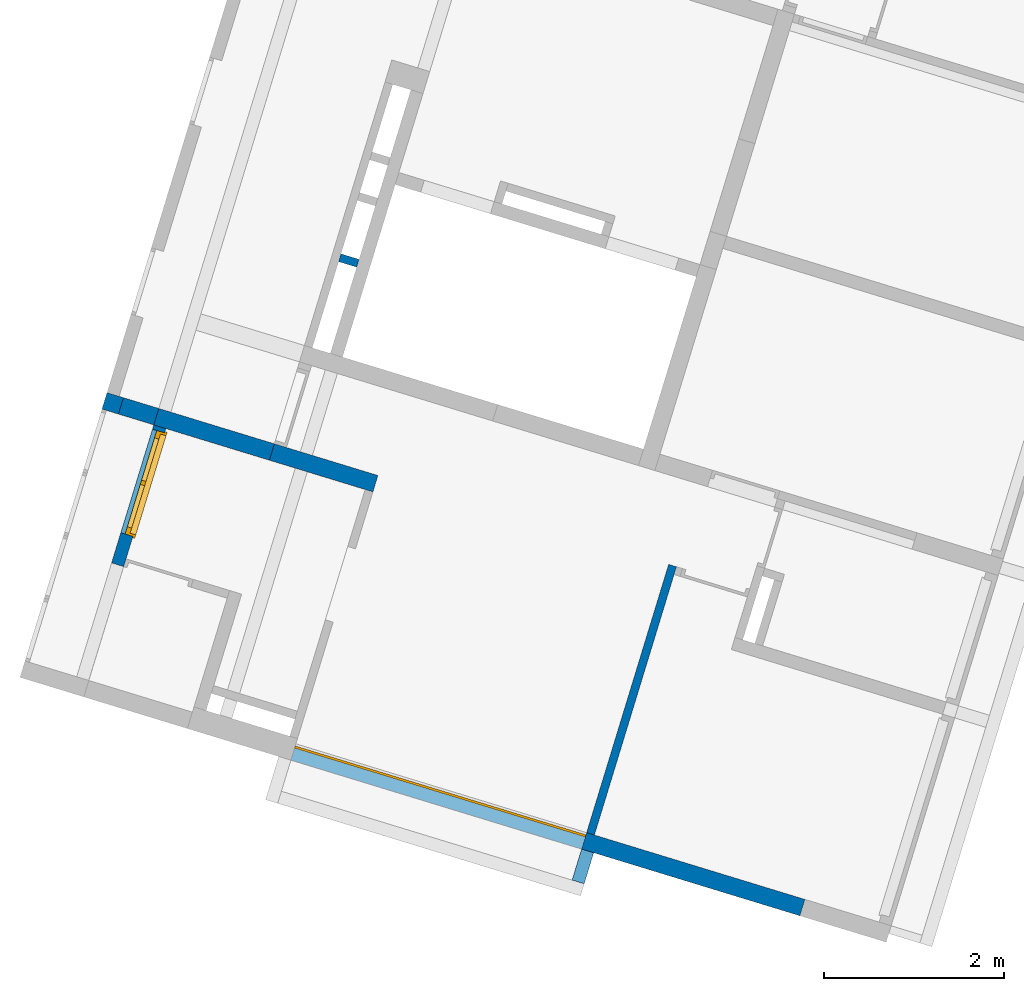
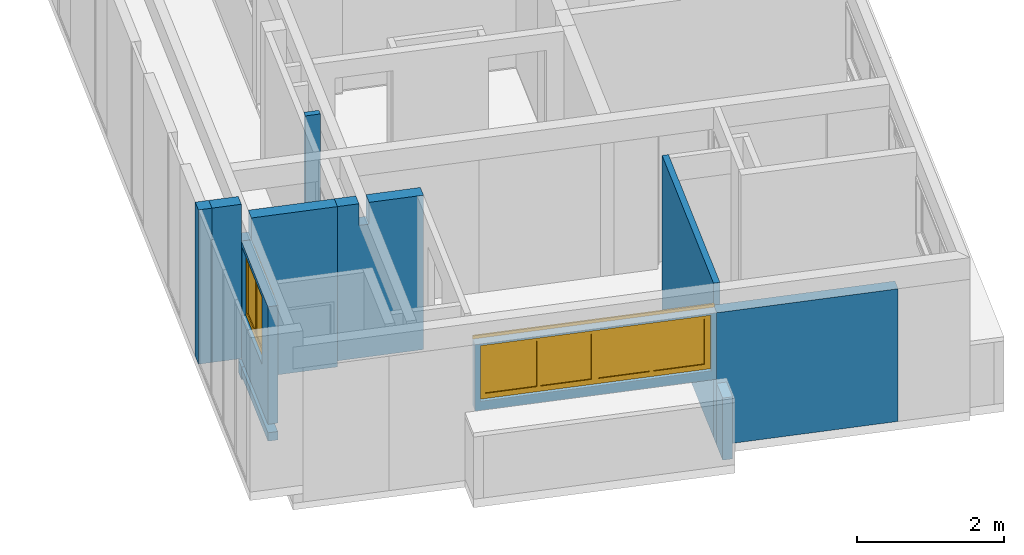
# One storey, part 11 of 18: 9 walls, 2 windows, 6 openings, plus 1 element that does not belong to this part.
"""IFC2X3 building model written with IfcOpenShell, lengths in millimetres."""

from ifc_helpers import new_model, entity, si_unit, converted_unit, derived_unit, money_unit, direction, frame, origin_with_axes, place, context, subcontext, project, spatial, open_shell, faceted_brep, surface_model, material, type_object, element, fill, save


model = new_model("IFC2X3")

# Units and contexts
model_context = context("Model", 3, precision=0.01, world=origin_with_axes(), true_north=direction((0.0, 1.0)))
body_context = subcontext(model_context, "Body", "Model", "MODEL_VIEW")
ifc_project = project(units=[si_unit("LENGTHUNIT", "METRE", prefix="MILLI"), si_unit("AREAUNIT", "SQUARE_METRE"), si_unit("VOLUMEUNIT", "CUBIC_METRE"), converted_unit("PLANEANGLEUNIT", "DEGREE", entity("IfcPlaneAngleMeasure", 0.0174532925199), si_unit("PLANEANGLEUNIT", "RADIAN"), dimensions=[0, 0, 0, 0, 0, 0, 0]), money_unit("USD"), converted_unit("TIMEUNIT", "Year", entity("IfcTimeMeasure", 31556926.0), si_unit("TIMEUNIT", "SECOND"), dimensions=[0, 0, 1, 0, 0, 0, 0]), si_unit("MASSUNIT", "GRAM", prefix="KILO"), si_unit("THERMODYNAMICTEMPERATUREUNIT", "DEGREE_CELSIUS"), si_unit("LUMINOUSINTENSITYUNIT", "LUMEN"), si_unit("ENERGYUNIT", "JOULE", prefix="MEGA"), derived_unit("THERMALCONDUCTANCEUNIT", [(si_unit("POWERUNIT", "WATT"), 1), (si_unit("LENGTHUNIT", "METRE"), -1), (si_unit("THERMODYNAMICTEMPERATUREUNIT", "KELVIN"), -1)]), derived_unit("SPECIFICHEATCAPACITYUNIT", [(si_unit("ENERGYUNIT", "JOULE"), 1), (si_unit("MASSUNIT", "GRAM", prefix="KILO"), -1), (si_unit("THERMODYNAMICTEMPERATUREUNIT", "KELVIN"), -1)]), derived_unit("MASSDENSITYUNIT", [(si_unit("MASSUNIT", "GRAM", prefix="KILO"), 1), (si_unit("VOLUMEUNIT", "CUBIC_METRE"), -1)])], contexts=[model_context])

# Site, building, storey
site_placement = place(None, frame((0.0, 0.0, 0.0), z_axis=(0.0, 0.0, 1.0), x_axis=(0.956304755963, -0.292371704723, 0.0)))
site = spatial("IfcSite", under=ifc_project, at=site_placement, Name="Site", CompositionType="ELEMENT")
building_placement = place(site_placement, origin_with_axes())
building = spatial("IfcBuilding", under=site, at=building_placement, Name="Building", CompositionType="ELEMENT")
storey_placement = place(building_placement, origin_with_axes())
storey = spatial("IfcBuildingStorey", under=building, at=storey_placement, Name="Pavimento tipo", CompositionType="ELEMENT", Elevation=0.0)

# Wall
ifc_material = material(Name="Tijolo - Estrutural")
wall_type_1 = type_object("IfcWallType", Name="Tijolo - Estrutural 90", PredefinedType="NOTDEFINED")
wall_1_placement = place(storey_placement, frame((1341.71075808, 5439.99196603, -100.0), z_axis=(0.0, 0.0, 1.0), x_axis=(1.0, 0.0, 0.0)))
element("IfcWall", 1, at=wall_1_placement, inside=storey, type_object=wall_type_1, material=ifc_material, Name="Parede 56", context=body_context, shape_type="Brep", body=[
    faceted_brep([(90.0000042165, 90.0, 0.0), (300.000183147, 90.0, 0.0), (300.000183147, 0.0, 0.0), (90.0, 0.0, 0.0), (90.0000042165, 90.0, 2560.0), (300.000183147, 90.0, 2560.0), (300.000183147, 0.0, 2560.0), (90.0, 0.0, 2560.0)], [[[0, 1, 2, 3]], [[4, 5, 1, 0]], [[6, 2, 1, 5]], [[3, 2, 6, 7]], [[7, 4, 0, 3]], [[7, 6, 5, 4]]]),
])

# Space
space_placement = place(storey_placement, frame((1481.71507604, 4250.00139822, 0.0), z_axis=(0.0, 0.0, 1.0), x_axis=(3.39571890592e-07, -1.0, 0.0)))
space = spatial("IfcSpace", under=storey, at=space_placement, Name="01", CompositionType="ELEMENT", InteriorOrExteriorSpace="INTERNAL")

# Walls
wall_2_placement = place(space_placement, frame((4250.00293298, 4429.99940685, 0.0), z_axis=(0.0, 0.0, 1.0), x_axis=(-1.0, -5.30711042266e-07, 0.0)))
element("IfcWall", 2, at=wall_2_placement, inside=space, type_object=wall_type_1, material=ifc_material, Name="Apt 01 - Parede 19", context=body_context, shape_type="Brep", body=[
    faceted_brep([(3300.00007874, 0.0, 2560.0), (189.990074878, 0.0, 2560.0), (189.989996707, -90.0, 2560.0), (3299.99999441, -90.0, 2560.0), (190.000078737, 0.00275009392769, 2200.0), (189.990074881, 0.00275009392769, 2200.0), (3300.00007874, 0.0, 0.0), (190.000078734, 0.0, 0.0), (190.000078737, 0.0, 1100.0), (189.989996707, -90.0, 2200.0), (190.000000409, -90.0, 2200.0), (190.000000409, -90.0, 0.0), (3299.99999441, -90.0, 0.0)], [[[0, 1, 2, 3]], [[4, 5, 1, 0, 6, 7, 8]], [[5, 9, 2, 1]], [[3, 2, 9, 10, 11, 12]], [[12, 6, 0, 3]], [[10, 9, 5, 4]], [[6, 12, 11, 7]], [[10, 4, 8, 7, 11]]]),
])
wall_type_2 = type_object("IfcWallType", Name="Tijolo - Estrutural 140", PredefinedType="NOTDEFINED")
wall_3_placement = place(space_placement, frame((4750.00315238, 4569.99408122, 0.0), z_axis=(0.0, 0.0, 1.0), x_axis=(-1.0, 3.39571890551e-07, 0.0)))
element("IfcWall", 3, at=wall_3_placement, inside=space, type_object=wall_type_2, material=ifc_material, Name="Apt 01 - Parede 27", context=body_context, shape_type="Brep", body=[
    faceted_brep([(500.000250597, 140.0, 0.0), (500.000250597, 0.0, 0.0), (140.0, 0.0, 0.0), (140.000000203, 140.0, 0.0), (500.000250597, 140.0, 1030.0), (500.000250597, 0.0, 1030.0), (140.0, 0.0, 1030.0), (140.000000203, 140.0, 1030.0)], [[[0, 1, 2, 3]], [[1, 0, 4, 5]], [[1, 5, 6, 2]], [[7, 3, 2, 6]], [[4, 0, 3, 7]], [[5, 4, 7, 6]]]),
])

# Wall, opening, window
wall_4_placement = place(space_placement, frame((4250.00154947, 1059.9948804, 1100.0), z_axis=(0.0, 0.0, 1.0), x_axis=(3.87173158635e-07, 1.0, 0.0)))
wall_4 = element("IfcWall", 4, at=wall_4_placement, inside=space, type_object=wall_type_2, material=ifc_material, Name="Apt 01 - Parede 03", context=body_context, shape_type="Brep", body=[
    faceted_brep([(75.0043393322, 3.57030174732e-06, 1075.0), (75.004332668, 140.00000357, 1075.0), (3295.00433267, 140.000156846, 1075.0), (3295.00433933, 0.000156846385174, 1075.0), (75.004332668, 140.00000357, 150.0), (75.0043393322, 3.57030169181e-06, 150.0), (-6.66417765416e-06, 140.0, 1100.0), (3370.00164785, 140.000160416, 1100.0), (3370.00164785, 140.000160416, 0.0), (-6.66417765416e-06, 140.0, 0.0), (3295.00433267, 140.000156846, 150.0), (3295.00433933, 0.000156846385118, 150.0), (0.0, 0.0, 0.0), (3370.00165451, 0.00016041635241, 0.0), (3370.00165451, 0.000160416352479, 1100.0), (0.0, 0.0, 1100.0)], [[[0, 1, 2, 3]], [[4, 1, 0, 5]], [[6, 7, 8, 9], [4, 10, 2, 1]], [[3, 2, 10, 11]], [[12, 13, 14, 15], [0, 3, 11, 5]], [[10, 4, 5, 11]], [[15, 14, 7, 6]], [[13, 8, 7, 14]], [[9, 8, 13, 12]], [[6, 9, 12, 15]]]),
])
opening_1_placement = place(wall_4_placement, frame((1685.00433933, 0.0, 150.0), z_axis=(0.0, 0.0, 1.0), x_axis=(1.0, 0.0, 0.0)))
opening_1 = element("IfcOpeningElement", 5, at=opening_1_placement, cuts=wall_4, Name="Apt 01 - J06", context=body_context, shape_type="Brep", body=[
    faceted_brep([(1609.99999334, 140.000156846, 0.0), (1609.99999334, 140.000156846, 925.0), (1609.99999762, 50.0001568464, 925.0), (1609.99999762, 50.0001568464, 0.0), (-1685.00000666, 140.0, 1000.0), (-1685.00000666, 140.0, -75.0), (1684.99999334, 140.000160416, -75.0), (1684.99999334, 140.000160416, 1000.0), (-1610.00000666, 140.00000357, 925.0), (-1610.00000666, 140.00000357, 0.0), (-1610.00000238, 50.0000035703, 925.0), (-1609.99999995, -1.00015684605, 925.0), (1610.00000005, -1.00000356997, 925.0), (1610.00000005, -1.00000356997, 0.0), (-1609.99999995, -1.00015684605, 0.0), (-1610.00000238, 50.0000035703, 0.0), (-1685.00000671, 141.0, 1000.0), (-1685.00000671, 141.0, -75.0), (1684.99999329, 141.000160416, -75.0), (1684.99999329, 141.000160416, 1000.0)], [[[0, 1, 2, 3]], [[4, 5, 6, 7], [8, 1, 0, 9]], [[1, 8, 10, 11, 12, 2]], [[3, 2, 12, 13]], [[9, 0, 3, 13, 14, 15]], [[5, 4, 16, 17]], [[6, 5, 17, 18]], [[7, 6, 18, 19]], [[4, 7, 19, 16]], [[8, 9, 15, 10]], [[10, 15, 14, 11]], [[11, 14, 13, 12]], [[18, 17, 16, 19]]]),
])
window_style_1 = type_object("IfcWindowStyle", Name="Janela de Correr 4-Folhas 26", ConstructionType="NOTDEFINED", OperationType="USERDEFINED", ParameterTakesPrecedence=False, Sizeable=False)
window_1_placement = place(opening_1_placement, frame((-1610.0, 0.0, 0.0), z_axis=(0.0, 0.0, 1.0), x_axis=(1.0, 0.0, 0.0)))
window_1 = element("IfcWindow", 6, at=window_1_placement, inside=space, type_object=window_style_1, Name="Apt 01 - J06", OverallHeight=925.0, OverallWidth=3220.0, context=body_context, shape_type="SurfaceModel", body=[
    faceted_brep([(3219.99999524, 100.000156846, 0.0), (-4.76012695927e-06, 100.00000357, 0.0), (-6.66417765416e-06, 140.00000357, 0.0), (3219.99999334, 140.000156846, 0.0), (3219.99999524, 100.000156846, 925.0), (-4.76012695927e-06, 100.00000357, 925.0), (3194.99999524, 100.000155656, 25.0), (24.9999952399, 100.00000476, 25.0), (24.9999952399, 100.00000476, 900.0), (3194.99999524, 100.000155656, 900.0), (-6.66417765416e-06, 140.00000357, 925.0), (3219.99999334, 140.000156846, 925.0), (3194.99999334, 140.000155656, 25.0), (3194.99999334, 140.000155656, 900.0), (24.9999933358, 140.00000476, 900.0), (24.9999933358, 140.00000476, 25.0)], [[[0, 1, 2, 3]], [[0, 4, 5, 1], [6, 7, 8, 9]], [[1, 5, 10, 2]], [[3, 2, 10, 11], [12, 13, 14, 15]], [[4, 0, 3, 11]], [[5, 4, 11, 10]], [[7, 6, 12, 15]], [[8, 7, 15, 14]], [[9, 8, 14, 13]], [[6, 9, 13, 12]]]),
    faceted_brep([(3294.99999215, 165.000160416, -75.0), (3294.99999334, 140.000160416, -75.0), (3194.99999334, 140.000155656, 25.0), (3194.99999215, 165.000155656, 25.0), (3294.99999215, 165.000160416, 1000.0), (3294.99999334, 140.000160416, 1000.0), (3194.99999334, 140.000155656, 900.0), (3194.99999215, 165.000155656, 900.0)], [[[0, 1, 2, 3]], [[4, 5, 1, 0]], [[1, 5, 6, 2]], [[3, 2, 6, 7]], [[0, 3, 7, 4]], [[7, 6, 5, 4]]]),
    faceted_brep([(-75.0000078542, 165.0, 1000.0), (-75.0000066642, 140.0, 1000.0), (24.9999933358, 140.00000476, 900.0), (24.9999921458, 165.00000476, 900.0), (-75.0000078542, 165.0, -75.0), (-75.0000066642, 140.0, -75.0), (24.9999933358, 140.00000476, 25.0), (24.9999921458, 165.00000476, 25.0)], [[[0, 1, 2, 3]], [[4, 5, 1, 0]], [[1, 5, 6, 2]], [[3, 2, 6, 7]], [[0, 3, 7, 4]], [[7, 6, 5, 4]]]),
    faceted_brep([(-75.0000078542, 165.0, -75.0), (-75.0000066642, 140.0, -75.0), (24.9999933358, 140.00000476, 25.0), (24.9999921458, 165.00000476, 25.0), (3294.99999215, 165.000160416, -75.0), (3294.99999334, 140.000160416, -75.0), (3194.99999334, 140.000155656, 25.0), (3194.99999215, 165.000155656, 25.0)], [[[0, 1, 2, 3]], [[4, 5, 1, 0]], [[1, 5, 6, 2]], [[3, 2, 6, 7]], [[0, 3, 7, 4]], [[7, 6, 5, 4]]]),
    faceted_brep([(3294.99999215, 165.000160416, 1000.0), (3294.99999334, 140.000160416, 1000.0), (3194.99999334, 140.000155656, 900.0), (3194.99999215, 165.000155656, 900.0), (-75.0000078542, 165.0, 1000.0), (-75.0000066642, 140.0, 1000.0), (24.9999933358, 140.00000476, 900.0), (24.9999921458, 165.00000476, 900.0)], [[[0, 1, 2, 3]], [[4, 5, 1, 0]], [[1, 5, 6, 2]], [[3, 2, 6, 7]], [[0, 3, 7, 4]], [[7, 6, 5, 4]]]),
    faceted_brep([(3134.99999762, 50.0001528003, 85.0), (3134.99999762, 50.0001528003, 840.0), (3134.99999524, 100.0001528, 840.0), (3134.99999524, 100.0001528, 85.0), (3219.99999762, 50.0001568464, 85.0), (3219.99999762, 50.0001568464, 840.0), (3219.99999524, 100.000156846, 840.0), (3219.99999524, 100.000156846, 85.0)], [[[0, 1, 2, 3]], [[0, 4, 5, 1]], [[1, 5, 6, 2]], [[3, 2, 6, 7]], [[4, 0, 3, 7]], [[5, 4, 7, 6]]]),
    faceted_brep([(-2.38006370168e-06, 50.0000035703, 85.0), (-2.38006370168e-06, 50.0000035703, 840.0), (-4.76012695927e-06, 100.00000357, 840.0), (-4.76012695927e-06, 100.00000357, 85.0), (84.9999976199, 50.0000076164, 85.0), (84.9999976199, 50.0000076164, 840.0), (84.9999952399, 100.000007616, 840.0), (84.9999952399, 100.000007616, 85.0)], [[[0, 1, 2, 3]], [[0, 4, 5, 1]], [[1, 5, 6, 2]], [[3, 2, 6, 7]], [[4, 0, 3, 7]], [[5, 4, 7, 6]]]),
    faceted_brep([(-2.38006370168e-06, 50.0000035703, 85.0), (84.9999976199, 50.0000076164, 85.0), (84.9999952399, 100.000007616, 85.0), (-4.76012695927e-06, 100.00000357, 85.0), (-2.38006370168e-06, 50.0000035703, 0.0), (3219.99999762, 50.0001568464, 0.0), (3219.99999762, 50.0001568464, 85.0), (3134.99999762, 50.0001528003, 85.0), (2422.49999762, 50.0001188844, 85.0), (2372.49999762, 50.0001165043, 85.0), (1659.99999762, 50.0000825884, 85.0), (1559.99999762, 50.0000778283, 85.0), (847.49999762, 50.0000439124, 85.0), (797.49999762, 50.0000415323, 85.0), (797.49999524, 100.000041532, 85.0), (847.49999524, 100.000043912, 85.0), (1559.99999524, 100.000077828, 85.0), (1659.99999524, 100.000082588, 85.0), (2372.49999524, 100.000116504, 85.0), (2422.49999524, 100.000118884, 85.0), (3134.99999524, 100.0001528, 85.0), (3219.99999524, 100.000156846, 85.0), (3219.99999524, 100.000156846, 0.0), (-4.76012695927e-06, 100.00000357, 0.0)], [[[0, 1, 2, 3]], [[0, 4, 5, 6, 7, 8, 9, 10, 11, 12, 13, 1]], [[1, 13, 14, 2]], [[3, 2, 14, 15, 16, 17, 18, 19, 20, 21, 22, 23]], [[4, 0, 3, 23]], [[5, 4, 23, 22]], [[6, 5, 22, 21]], [[7, 6, 21, 20]], [[8, 7, 20, 19]], [[9, 8, 19, 18]], [[10, 9, 18, 17]], [[11, 10, 17, 16]], [[12, 11, 16, 15]], [[13, 12, 15, 14]]]),
    faceted_brep([(-2.38006370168e-06, 50.0000035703, 925.0), (3219.99999762, 50.0001568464, 925.0), (3219.99999524, 100.000156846, 925.0), (-4.76012695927e-06, 100.00000357, 925.0), (-2.38006370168e-06, 50.0000035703, 840.0), (84.9999976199, 50.0000076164, 840.0), (797.49999762, 50.0000415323, 840.0), (847.49999762, 50.0000439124, 840.0), (1559.99999762, 50.0000778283, 840.0), (1659.99999762, 50.0000825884, 840.0), (2372.49999762, 50.0001165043, 840.0), (2422.49999762, 50.0001188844, 840.0), (3134.99999762, 50.0001528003, 840.0), (3219.99999762, 50.0001568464, 840.0), (3219.99999524, 100.000156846, 840.0), (3134.99999524, 100.0001528, 840.0), (2422.49999524, 100.000118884, 840.0), (2372.49999524, 100.000116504, 840.0), (1659.99999524, 100.000082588, 840.0), (1559.99999524, 100.000077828, 840.0), (847.49999524, 100.000043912, 840.0), (797.49999524, 100.000041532, 840.0), (84.9999952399, 100.000007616, 840.0), (-4.76012695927e-06, 100.00000357, 840.0)], [[[0, 1, 2, 3]], [[0, 4, 5, 6, 7, 8, 9, 10, 11, 12, 13, 1]], [[1, 13, 14, 2]], [[3, 2, 14, 15, 16, 17, 18, 19, 20, 21, 22, 23]], [[4, 0, 3, 23]], [[5, 4, 23, 22]], [[6, 5, 22, 21]], [[7, 6, 21, 20]], [[8, 7, 20, 19]], [[9, 8, 19, 18]], [[10, 9, 18, 17]], [[11, 10, 17, 16]], [[12, 11, 16, 15]], [[13, 12, 15, 14]]]),
    faceted_brep([(2422.49999762, 50.0001188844, 85.0), (2372.49999762, 50.0001165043, 85.0), (2372.49999524, 100.000116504, 85.0), (2422.49999524, 100.000118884, 85.0), (2422.49999762, 50.0001188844, 840.0), (2372.49999762, 50.0001165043, 840.0), (2372.49999524, 100.000116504, 840.0), (2422.49999524, 100.000118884, 840.0)], [[[0, 1, 2, 3]], [[0, 4, 5, 1]], [[1, 5, 6, 2]], [[3, 2, 6, 7]], [[4, 0, 3, 7]], [[5, 4, 7, 6]]]),
    faceted_brep([(1659.99999762, 50.0000825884, 85.0), (1559.99999762, 50.0000778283, 85.0), (1559.99999524, 100.000077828, 85.0), (1659.99999524, 100.000082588, 85.0), (1659.99999762, 50.0000825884, 840.0), (1559.99999762, 50.0000778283, 840.0), (1559.99999524, 100.000077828, 840.0), (1659.99999524, 100.000082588, 840.0)], [[[0, 1, 2, 3]], [[0, 4, 5, 1]], [[1, 5, 6, 2]], [[3, 2, 6, 7]], [[4, 0, 3, 7]], [[5, 4, 7, 6]]]),
    faceted_brep([(847.49999762, 50.0000439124, 85.0), (797.49999762, 50.0000415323, 85.0), (797.49999524, 100.000041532, 85.0), (847.49999524, 100.000043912, 85.0), (847.49999762, 50.0000439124, 840.0), (797.49999762, 50.0000415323, 840.0), (797.49999524, 100.000041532, 840.0), (847.49999524, 100.000043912, 840.0)], [[[0, 1, 2, 3]], [[0, 4, 5, 1]], [[1, 5, 6, 2]], [[3, 2, 6, 7]], [[4, 0, 3, 7]], [[5, 4, 7, 6]]]),
    surface_model("IfcShellBasedSurfaceModel", [(3134.99999691, 65.0001528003, 85.0), (3134.99999691, 65.0001528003, 840.0), (2422.49999691, 65.0001188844, 840.0), (2422.49999691, 65.0001188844, 85.0)], [open_shell([[[0, 1, 2, 3]]])]),
    surface_model("IfcShellBasedSurfaceModel", [(3134.99999595, 85.0001528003, 85.0), (2422.49999595, 85.0001188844, 85.0), (2422.49999595, 85.0001188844, 840.0), (3134.99999595, 85.0001528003, 840.0)], [open_shell([[[0, 1, 2, 3]]])]),
    surface_model("IfcShellBasedSurfaceModel", [(2372.49999691, 65.0001165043, 85.0), (2372.49999691, 65.0001165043, 840.0), (1659.99999691, 65.0000825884, 840.0), (1659.99999691, 65.0000825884, 85.0)], [open_shell([[[0, 1, 2, 3]]])]),
    surface_model("IfcShellBasedSurfaceModel", [(2372.49999595, 85.0001165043, 85.0), (1659.99999595, 85.0000825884, 85.0), (1659.99999595, 85.0000825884, 840.0), (2372.49999595, 85.0001165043, 840.0)], [open_shell([[[0, 1, 2, 3]]])]),
    surface_model("IfcShellBasedSurfaceModel", [(1559.99999691, 65.0000778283, 85.0), (1559.99999691, 65.0000778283, 840.0), (847.499996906, 65.0000439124, 840.0), (847.499996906, 65.0000439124, 85.0)], [open_shell([[[0, 1, 2, 3]]])]),
    surface_model("IfcShellBasedSurfaceModel", [(1559.99999595, 85.0000778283, 85.0), (847.499995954, 85.0000439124, 85.0), (847.499995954, 85.0000439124, 840.0), (1559.99999595, 85.0000778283, 840.0)], [open_shell([[[0, 1, 2, 3]]])]),
    surface_model("IfcShellBasedSurfaceModel", [(797.499996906, 65.0000415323, 85.0), (797.499996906, 65.0000415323, 840.0), (84.9999969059, 65.0000076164, 840.0), (84.9999969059, 65.0000076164, 85.0)], [open_shell([[[0, 1, 2, 3]]])]),
    surface_model("IfcShellBasedSurfaceModel", [(797.499995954, 85.0000415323, 85.0), (84.9999959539, 85.0000076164, 85.0), (84.9999959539, 85.0000076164, 840.0), (797.499995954, 85.0000415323, 840.0)], [open_shell([[[0, 1, 2, 3]]])]),
])
fill(opening_1, window_1)

wall_5_placement = place(space_placement, frame((2650.01279505, -1340.02328808, -30.0), z_axis=(0.0, 0.0, 1.0), x_axis=(-0.999999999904, 1.38270975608e-05, 0.0)))
wall_5 = element("IfcWall", 7, at=wall_5_placement, inside=space, type_object=wall_type_2, material=ifc_material, Name="Apt 01 - Parede 16", context=body_context, shape_type="Brep", body=[
    faceted_brep([(1510.01067118, 140.0, 0.0), (1510.01067118, 140.0, 140.0), (1510.01292154, -0.000394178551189, 140.0), (1510.01292153, 0.0, 0.0), (-90.0021081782, 140.0, 0.0), (-90.0021081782, 140.0, 140.0), (-90.0000000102, 0.0, 140.0), (-90.0000000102, 0.0, 0.0)], [[[0, 1, 2, 3]], [[4, 5, 1, 0]], [[5, 6, 2, 1]], [[3, 2, 6, 7]], [[4, 0, 3, 7]], [[7, 6, 5, 4]]]),
    faceted_brep([(1460.00020346, 90.0, 1030.0), (1460.00020346, 90.0, 2150.0), (1460.00020346, 140.0, 2150.0), (1460.00020346, 140.0, 1030.0), (1460.00020346, 0.0, 1030.0), (1460.00020346, 0.0, 2150.0), (260.000203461, 90.0, 2150.0), (260.000203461, 140.0, 2150.0), (-90.0021081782, 140.0, 280.0), (-90.0021081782, 140.0, 2230.0), (1510.01067118, 140.0, 2230.0), (1510.01067118, 140.0, 280.0), (260.000203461, 140.0, 1030.0), (260.000203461, 90.0, 1030.0), (1510.01292154, -0.000394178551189, 280.0), (1510.01292153, 0.0, 2230.0), (-90.0000000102, 0.0, 2230.0), (-90.0000000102, 0.0, 280.0), (260.000203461, 0.0, 1030.0), (260.000203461, 0.0, 2150.0)], [[[0, 1, 2, 3]], [[4, 5, 1, 0]], [[1, 6, 7, 2]], [[8, 9, 10, 11], [3, 2, 7, 12]], [[13, 0, 3, 12]], [[14, 15, 16, 17], [18, 19, 5, 4]], [[5, 19, 6, 1]], [[18, 4, 0, 13]], [[6, 13, 12, 7]], [[17, 16, 9, 8]], [[10, 9, 16, 15]], [[11, 10, 15, 14]], [[14, 17, 8, 11]], [[19, 18, 13, 6]]]),
])
opening_2_placement = place(wall_5_placement, frame((860.000203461, 0.0, 1030.0), z_axis=(0.0, 0.0, 1.0), x_axis=(1.0, 0.0, 0.0)))
opening_2 = element("IfcOpeningElement", 8, at=opening_2_placement, cuts=wall_5, Name="Apt 01 - J05", context=body_context, shape_type="Brep", body=[
    faceted_brep([(-600.0, 0.0, 1120.0), (600.0, 0.0, 1120.0), (600.0, 90.0, 1120.0), (600.0, 141.022928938, 1120.0), (-600.0, 141.022928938, 1120.0), (-600.0, 90.0, 1120.0), (615.0, 0.0, 1135.0), (615.0, 0.0, -15.0), (-615.0, 0.0, -15.0), (-615.0, 0.0, 1135.0), (600.0, 0.0, 0.0), (-600.0, 0.0, 0.0), (600.0, 90.0, 0.0), (600.0, 141.022928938, 0.0), (-600.0, 141.022928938, 0.0), (-600.0, 90.0, 0.0), (615.0, -1.02292893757, 1135.0), (615.0, -1.02292893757, -15.0), (-615.0, -1.02292893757, -15.0), (-615.0, -1.02292893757, 1135.0)], [[[0, 1, 2, 3, 4, 5]], [[6, 7, 8, 9], [10, 1, 0, 11]], [[1, 10, 12, 2]], [[2, 12, 13, 3]], [[3, 13, 14, 4]], [[15, 5, 4, 14]], [[11, 0, 5, 15]], [[7, 6, 16, 17]], [[8, 7, 17, 18]], [[9, 8, 18, 19]], [[6, 9, 19, 16]], [[10, 11, 15, 14, 13, 12]], [[18, 17, 16, 19]]]),
])
window_style_2 = type_object("IfcWindowStyle", Name="Janela 26", ConstructionType="NOTDEFINED", OperationType="DOUBLE_PANEL_VERTICAL", ParameterTakesPrecedence=False, Sizeable=False)
window_2_placement = place(opening_2_placement, frame((600.0, 0.0, 0.0), z_axis=(0.0, 0.0, 1.0), x_axis=(-1.0, 0.0, 0.0)))
window_2 = element("IfcWindow", 9, at=window_2_placement, inside=space, type_object=window_style_2, Name="Apt 01 - J05", OverallHeight=1120.0, OverallWidth=1200.0, context=body_context, shape_type="SurfaceModel", body=[
    faceted_brep([(1200.0, -40.0, 0.0), (0.0, -40.0, 0.0), (0.0, 0.0, 0.0), (1200.0, 0.0, 0.0), (1200.0, -40.0, 1120.0), (0.0, -40.0, 1120.0), (1175.0, -40.0, 25.0), (25.0, -40.0, 25.0), (25.0, -40.0, 1095.0), (1175.0, -40.0, 1095.0), (0.0, 0.0, 1120.0), (1200.0, 0.0, 1120.0), (1175.0, 0.0, 25.0), (1175.0, 0.0, 1095.0), (25.0, 0.0, 1095.0), (25.0, 0.0, 25.0)], [[[0, 1, 2, 3]], [[0, 4, 5, 1], [6, 7, 8, 9]], [[1, 5, 10, 2]], [[3, 2, 10, 11], [12, 13, 14, 15]], [[4, 0, 3, 11]], [[5, 4, 11, 10]], [[7, 6, 12, 15]], [[8, 7, 15, 14]], [[9, 8, 14, 13]], [[6, 9, 13, 12]]]),
    faceted_brep([(1215.0, 25.0, -15.0), (1215.0, 0.0, -15.0), (1175.0, 0.0, 25.0), (1175.0, 25.0, 25.0), (1215.0, 25.0, 1135.0), (1215.0, 0.0, 1135.0), (1175.0, 0.0, 1095.0), (1175.0, 25.0, 1095.0)], [[[0, 1, 2, 3]], [[4, 5, 1, 0]], [[1, 5, 6, 2]], [[3, 2, 6, 7]], [[0, 3, 7, 4]], [[7, 6, 5, 4]]]),
    faceted_brep([(-15.0, 25.0, 1135.0), (-15.0, 0.0, 1135.0), (25.0, 0.0, 1095.0), (25.0, 25.0, 1095.0), (-15.0, 25.0, -15.0), (-15.0, 0.0, -15.0), (25.0, 0.0, 25.0), (25.0, 25.0, 25.0)], [[[0, 1, 2, 3]], [[4, 5, 1, 0]], [[1, 5, 6, 2]], [[3, 2, 6, 7]], [[0, 3, 7, 4]], [[7, 6, 5, 4]]]),
    faceted_brep([(-15.0, 25.0, -15.0), (-15.0, 0.0, -15.0), (25.0, 0.0, 25.0), (25.0, 25.0, 25.0), (1215.0, 25.0, -15.0), (1215.0, 0.0, -15.0), (1175.0, 0.0, 25.0), (1175.0, 25.0, 25.0)], [[[0, 1, 2, 3]], [[4, 5, 1, 0]], [[1, 5, 6, 2]], [[3, 2, 6, 7]], [[0, 3, 7, 4]], [[7, 6, 5, 4]]]),
    faceted_brep([(1215.0, 25.0, 1135.0), (1215.0, 0.0, 1135.0), (1175.0, 0.0, 1095.0), (1175.0, 25.0, 1095.0), (-15.0, 25.0, 1135.0), (-15.0, 0.0, 1135.0), (25.0, 0.0, 1095.0), (25.0, 25.0, 1095.0)], [[[0, 1, 2, 3]], [[4, 5, 1, 0]], [[1, 5, 6, 2]], [[3, 2, 6, 7]], [[0, 3, 7, 4]], [[7, 6, 5, 4]]]),
    faceted_brep([(1115.0, -90.0, 1035.0), (1200.0, -90.0, 1035.0), (1200.0, -40.0, 1035.0), (1115.0, -40.0, 1035.0), (1115.0, -90.0, 85.0), (1200.0, -90.0, 85.0), (1200.0, -40.0, 85.0), (1115.0, -40.0, 85.0)], [[[0, 1, 2, 3]], [[0, 4, 5, 1]], [[1, 5, 6, 2]], [[3, 2, 6, 7]], [[4, 0, 3, 7]], [[5, 4, 7, 6]]]),
    faceted_brep([(85.0, -90.0, 85.0), (0.0, -90.0, 85.0), (0.0, -40.0, 85.0), (85.0, -40.0, 85.0), (85.0, -90.0, 1035.0), (0.0, -90.0, 1035.0), (0.0, -40.0, 1035.0), (85.0, -40.0, 1035.0)], [[[0, 1, 2, 3]], [[0, 4, 5, 1]], [[1, 5, 6, 2]], [[3, 2, 6, 7]], [[4, 0, 3, 7]], [[5, 4, 7, 6]]]),
    faceted_brep([(1115.0, -90.0, 85.0), (1200.0, -90.0, 85.0), (1200.0, -40.0, 85.0), (1115.0, -40.0, 85.0), (625.0, -90.0, 85.0), (575.0, -90.0, 85.0), (85.0, -90.0, 85.0), (0.0, -90.0, 85.0), (0.0, -90.0, 0.0), (1200.0, -90.0, 0.0), (1200.0, -40.0, 0.0), (0.0, -40.0, 0.0), (0.0, -40.0, 85.0), (85.0, -40.0, 85.0), (575.0, -40.0, 85.0), (625.0, -40.0, 85.0)], [[[0, 1, 2, 3]], [[0, 4, 5, 6, 7, 8, 9, 1]], [[1, 9, 10, 2]], [[3, 2, 10, 11, 12, 13, 14, 15]], [[4, 0, 3, 15]], [[5, 4, 15, 14]], [[6, 5, 14, 13]], [[7, 6, 13, 12]], [[8, 7, 12, 11]], [[9, 8, 11, 10]]]),
    faceted_brep([(625.0, -90.0, 1035.0), (575.0, -90.0, 1035.0), (575.0, -40.0, 1035.0), (625.0, -40.0, 1035.0), (1115.0, -90.0, 1035.0), (1200.0, -90.0, 1035.0), (1200.0, -90.0, 1120.0), (0.0, -90.0, 1120.0), (0.0, -90.0, 1035.0), (85.0, -90.0, 1035.0), (85.0, -40.0, 1035.0), (0.0, -40.0, 1035.0), (0.0, -40.0, 1120.0), (1200.0, -40.0, 1120.0), (1200.0, -40.0, 1035.0), (1115.0, -40.0, 1035.0)], [[[0, 1, 2, 3]], [[0, 4, 5, 6, 7, 8, 9, 1]], [[1, 9, 10, 2]], [[3, 2, 10, 11, 12, 13, 14, 15]], [[4, 0, 3, 15]], [[5, 4, 15, 14]], [[6, 5, 14, 13]], [[7, 6, 13, 12]], [[8, 7, 12, 11]], [[9, 8, 11, 10]]]),
    faceted_brep([(625.0, -90.0, 85.0), (575.0, -90.0, 85.0), (575.0, -40.0, 85.0), (625.0, -40.0, 85.0), (625.0, -90.0, 1035.0), (575.0, -90.0, 1035.0), (575.0, -40.0, 1035.0), (625.0, -40.0, 1035.0)], [[[0, 1, 2, 3]], [[0, 4, 5, 1]], [[1, 5, 6, 2]], [[3, 2, 6, 7]], [[4, 0, 3, 7]], [[5, 4, 7, 6]]]),
    surface_model("IfcShellBasedSurfaceModel", [(575.0, -75.0, 85.0), (575.0, -75.0, 1035.0), (85.0, -75.0, 1035.0), (85.0, -75.0, 85.0)], [open_shell([[[0, 1, 2, 3]]])]),
    surface_model("IfcShellBasedSurfaceModel", [(575.0, -55.0, 85.0), (85.0, -55.0, 85.0), (85.0, -55.0, 1035.0), (575.0, -55.0, 1035.0)], [open_shell([[[0, 1, 2, 3]]])]),
    surface_model("IfcShellBasedSurfaceModel", [(1115.0, -75.0, 85.0), (1115.0, -75.0, 1035.0), (625.0, -75.0, 1035.0), (625.0, -75.0, 85.0)], [open_shell([[[0, 1, 2, 3]]])]),
    surface_model("IfcShellBasedSurfaceModel", [(1115.0, -55.0, 85.0), (625.0, -55.0, 85.0), (625.0, -55.0, 1035.0), (1115.0, -55.0, 1035.0)], [open_shell([[[0, 1, 2, 3]]])]),
])
fill(opening_2, window_2)

# Wall
wall_type_3 = type_object("IfcWallType", Name="Tijolo - Estrutural 190", PredefinedType="NOTDEFINED")
wall_6_placement = place(space_placement, frame((950.000188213, -1479.99978186, 250.0), z_axis=(0.0, 0.0, 1.0), x_axis=(3.52625578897e-05, -0.999999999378, 0.0)))
element("IfcWall", 10, at=wall_6_placement, inside=space, type_object=wall_type_3, material=ifc_material, Name="Apt 01 - Parede 07", context=body_context, shape_type="Brep", body=[
    faceted_brep([(410.0117945, 190.0, 2560.0), (0.0, 190.0, 2560.0), (0.0, 0.0, 2560.0), (410.005159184, 0.0, 2560.0), (410.0117945, 190.0, 0.0), (0.0, 190.0, 0.0), (0.0, 0.0, 0.0), (410.005159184, 0.0, 0.0)], [[[0, 1, 2, 3]], [[4, 5, 1, 0]], [[2, 1, 5, 6]], [[3, 2, 6, 7]], [[3, 7, 4, 0]], [[7, 6, 5, 4]]]),
])

# Wall, openings
wall_7_placement = place(space_placement, frame((4155.00226201, -1985.00385159, 250.0), z_axis=(0.0, 0.0, 1.0), x_axis=(-1.0, -3.39842991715e-07, 0.0)))
wall_7 = element("IfcWall", 11, at=wall_7_placement, inside=space, type_object=wall_type_3, material=ifc_material, Name="Apt 01 - Parede 15", context=body_context, shape_type="Brep", body=[
    faceted_brep([(3014.99834933, 95.0, 2560.0), (3014.99834933, -94.9892338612, 2560.0), (3014.98758357, -95.0, 2560.0), (3204.98758368, -95.0, 2560.0), (3204.98094837, 95.0, 2560.0), (3014.99834933, 95.0, 0.0), (3014.99834933, -94.9892338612, 0.0), (3014.98758357, -95.0, 0.0), (3204.98758368, -95.0, 0.0), (3204.98094837, 95.0, 0.0)], [[[0, 1, 2, 3, 4]], [[1, 0, 5, 6]], [[7, 2, 1, 6]], [[2, 7, 8, 3]], [[8, 9, 4, 3]], [[5, 0, 4, 9]], [[6, 5, 9, 8, 7]]]),
])
opening_3_placement = place(wall_7_placement, frame((459.998349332, 0.0, 0.0), z_axis=(0.0, 0.0, 1.0), x_axis=(1.0, 0.0, 0.0)))
element("IfcOpeningElement", 12, at=opening_3_placement, cuts=wall_7, Name="Apt 01 - J01", context=body_context, shape_type="Brep", body=[
    faceted_brep([(-365.0, -96.0021775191, 2560.0), (-365.0, -96.0021775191, 0.0), (365.0, -96.0021775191, 0.0), (365.0, -96.0021775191, 2560.0), (-365.0, 96.0021775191, 2560.0), (-365.0, 96.0021775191, 0.0), (365.0, 96.0021775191, 0.0), (365.0, 96.0021775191, 2560.0)], [[[0, 1, 2, 3]], [[4, 5, 1, 0]], [[5, 6, 2, 1]], [[6, 7, 3, 2]], [[7, 4, 0, 3]], [[6, 5, 4, 7]]]),
])
opening_4_placement = place(wall_7_placement, frame((1189.99834933, 0.0, 0.0), z_axis=(0.0, 0.0, 1.0), x_axis=(1.0, 0.0, 0.0)))
element("IfcOpeningElement", 13, at=opening_4_placement, cuts=wall_7, Name="Apt 01 - J02", context=body_context, shape_type="Brep", body=[
    faceted_brep([(-365.0, -96.0021775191, 2560.0), (-365.0, -96.0021775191, 0.0), (365.0, -96.0021775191, 0.0), (365.0, -96.0021775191, 2560.0), (-365.0, 96.0021775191, 2560.0), (-365.0, 96.0021775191, 0.0), (365.0, 96.0021775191, 0.0), (365.0, 96.0021775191, 2560.0)], [[[0, 1, 2, 3]], [[4, 5, 1, 0]], [[5, 6, 2, 1]], [[6, 7, 3, 2]], [[7, 4, 0, 3]], [[6, 5, 4, 7]]]),
])
opening_5_placement = place(wall_7_placement, frame((1919.99834933, 0.0, 0.0), z_axis=(0.0, 0.0, 1.0), x_axis=(1.0, 0.0, 0.0)))
element("IfcOpeningElement", 14, at=opening_5_placement, cuts=wall_7, Name="Apt 01 - J03", context=body_context, shape_type="Brep", body=[
    faceted_brep([(-365.0, -96.0021775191, 2560.0), (-365.0, -96.0021775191, 0.0), (365.0, -96.0021775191, 0.0), (365.0, -96.0021775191, 2560.0), (-365.0, 96.0021775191, 2560.0), (-365.0, 96.0021775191, 0.0), (365.0, 96.0021775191, 0.0), (365.0, 96.0021775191, 2560.0)], [[[0, 1, 2, 3]], [[4, 5, 1, 0]], [[5, 6, 2, 1]], [[6, 7, 3, 2]], [[7, 4, 0, 3]], [[6, 5, 4, 7]]]),
])
opening_6_placement = place(wall_7_placement, frame((2649.99834933, 0.0, 0.0), z_axis=(0.0, 0.0, 1.0), x_axis=(1.0, 0.0, 0.0)))
element("IfcOpeningElement", 15, at=opening_6_placement, cuts=wall_7, Name="Apt 01 - J04", context=body_context, shape_type="Brep", body=[
    faceted_brep([(-365.0, -96.0021775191, 2560.0), (-365.0, -96.0021775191, 0.0), (363.987091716, -96.0021775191, 0.0), (363.987091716, -96.0021775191, 2560.0), (-365.0, 96.0021775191, 2560.0), (-365.0, 96.0021775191, 0.0), (365.0, 96.0021775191, 0.0), (365.0, -94.9892338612, 0.0), (365.0, -94.9892338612, 2560.0), (365.0, 96.0021775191, 2560.0)], [[[0, 1, 2, 3]], [[4, 5, 1, 0]], [[5, 6, 7, 2, 1]], [[2, 7, 8, 3]], [[9, 4, 0, 3, 8]], [[6, 5, 4, 9]], [[6, 9, 8, 7]]]),
])

# Walls
wall_8_placement = place(space_placement, frame((4250.00285424, 4429.99653491, 0.0), z_axis=(0.0, 0.0, 1.0), x_axis=(3.39571890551e-07, 1.0, 0.0)))
element("IfcWall", 16, at=wall_8_placement, inside=space, type_object=wall_type_3, material=ifc_material, Name="Apt 01 - Parede 04", context=body_context, shape_type="Brep", body=[
    faceted_brep([(0.00270657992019, 190.000000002, 1100.0), (0.0, 190.0, 2200.0), (2530.0, 190.0, 2200.0), (2530.0, 190.0, 0.0), (0.00270657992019, 190.0, 0.0), (0.00287193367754, 2.49933407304e-09, 1100.0), (0.0, 0.0, 2200.0), (2530.0, 0.0, 2200.0), (2530.0, 0.0, 0.0), (0.00287193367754, 0.0, 0.0)], [[[0, 1, 2, 3, 4]], [[0, 5, 6, 1]], [[1, 6, 7, 2]], [[8, 3, 2, 7]], [[9, 4, 3, 8]], [[5, 0, 4, 9]], [[9, 8, 7, 6, 5]]]),
])
wall_9_placement = place(storey_placement, frame((1.7156167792, 3300.00070744, -100.0), z_axis=(0.0, 0.0, 1.0), x_axis=(0.999999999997, 2.58643235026e-06, 0.0)))
element("IfcWall", 17, at=wall_9_placement, inside=storey, type_object=wall_type_3, material=ifc_material, Name="Apt 01 - Parede 08", context=body_context, shape_type="Brep", body=[
    faceted_brep([(0.0, 0.0, 350.0), (-0.0021684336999, 5.60884672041e-09, 2300.0), (139.997831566, -0.00036209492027, 2300.0), (139.997831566, -0.00036209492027, 2660.0), (1339.99743736, -0.00346581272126, 2660.0), (1339.99743736, -0.00346581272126, 0.0), (0.0, 0.0, 0.0), (0.0, 0.0, 210.0), (139.997831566, -0.00036209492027, 210.0), (139.997831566, -0.00036209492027, 350.0), (-0.000491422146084, -189.999999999, 350.0), (-0.00265985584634, -189.999999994, 2300.0), (139.997340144, -190.000362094, 2300.0), (139.997340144, -190.000362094, 2660.0), (1339.99694594, -190.003465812, 2660.0), (1339.99694594, -190.003465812, 0.0), (-0.000491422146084, -189.999999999, 0.0), (-0.000491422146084, -189.999999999, 210.0), (139.997340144, -190.000362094, 210.0), (139.997340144, -190.000362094, 350.0)], [[[0, 1, 2, 3, 4, 5, 6, 7, 8, 9]], [[10, 11, 1, 0]], [[12, 2, 1, 11]], [[12, 13, 3, 2]], [[4, 3, 13, 14]], [[4, 14, 15, 5]], [[6, 5, 15, 16]], [[6, 16, 17, 7]], [[17, 18, 8, 7]], [[18, 19, 9, 8]], [[19, 10, 0, 9]], [[13, 12, 11, 10, 19, 18, 17, 16, 15, 14]]]),
])
wall_10_placement = place(storey_placement, frame((1341.71152853, 3300.00417326, 0.0), z_axis=(0.0, 0.0, 1.0), x_axis=(0.999999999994, -3.57141179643e-06, 0.0)))
element("IfcWall", 18, at=wall_10_placement, inside=storey, type_object=wall_type_3, material=ifc_material, Name="Apt 01 - Parede 09", context=body_context, shape_type="Brep", body=[
    faceted_brep([(300.001919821, 0.0, 2560.0), (300.001919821, 0.0, 2200.0), (440.001919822, 0.0, 2200.0), (440.001919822, 0.0, 2560.0), (1199.99967241, 0.0, 2560.0), (1199.99967241, 0.0, 0.0), (0.0, 0.0, 0.0), (0.0, 0.0, 2560.0), (300.002598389, -190.0, 2200.0), (300.002598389, -190.0, 2560.0), (440.00259839, -190.0, 2200.0), (440.00259839, -190.0, 2560.0), (1200.00035098, -190.0, 2560.0), (1200.00035098, -190.0, 0.0), (0.0, -190.0, 0.0), (0.0, -190.0, 2560.0)], [[[0, 1, 2, 3, 4, 5, 6, 7]], [[8, 1, 0, 9]], [[10, 2, 1, 8]], [[10, 11, 3, 2]], [[4, 3, 11, 12]], [[5, 4, 12, 13]], [[5, 13, 14, 6]], [[6, 14, 15, 7]], [[15, 9, 0, 7]], [[10, 8, 9, 15, 14, 13, 12, 11]]]),
])

save(model, "model.ifc")
